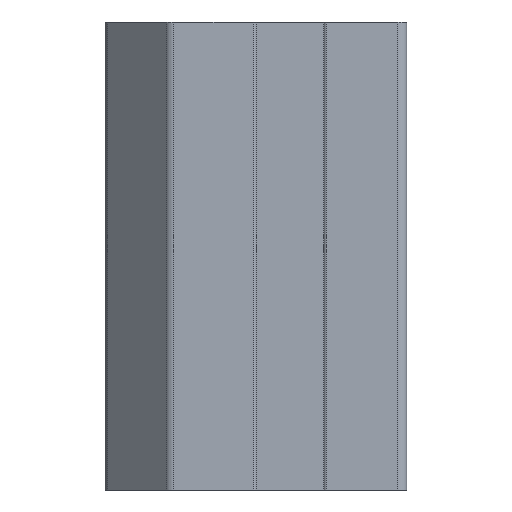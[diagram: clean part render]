
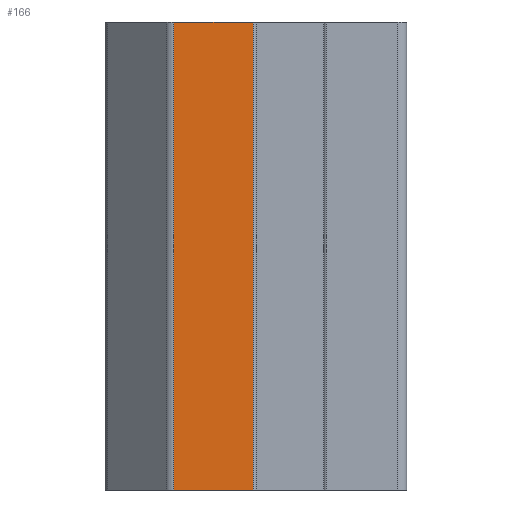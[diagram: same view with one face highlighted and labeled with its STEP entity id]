
A CAD part, front view. The second image highlights one B-rep face of the part: STEP entity #166.
In plain terms, the highlighted planar face has unit normal (0, -1, 0).
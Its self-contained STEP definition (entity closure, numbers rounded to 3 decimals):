
#166=ADVANCED_FACE('',(#410),#411,.F.);
#410=FACE_OUTER_BOUND('',#737,.T.);
#411=PLANE('',#738);
#737=EDGE_LOOP('',(#1153,#1154,#1155,#1156));
#738=AXIS2_PLACEMENT_3D('',#1157,#1158,#1159);
#1153=ORIENTED_EDGE('',*,*,#2122,.T.);
#1154=ORIENTED_EDGE('',*,*,#2123,.F.);
#1155=ORIENTED_EDGE('',*,*,#2124,.F.);
#1156=ORIENTED_EDGE('',*,*,#2125,.T.);
#1157=CARTESIAN_POINT('',(-24.941,0.0,50.0));
#1158=DIRECTION('',(0.,1.0,0.0));
#1159=DIRECTION('',(-1.0,0.,0.0));
#2122=EDGE_CURVE('',#2604,#2605,#2606,.T.);
#2123=EDGE_CURVE('',#2607,#2605,#2608,.T.);
#2124=EDGE_CURVE('',#2609,#2607,#2610,.T.);
#2125=EDGE_CURVE('',#2609,#2604,#2611,.T.);
#2604=VERTEX_POINT('',#3276);
#2605=VERTEX_POINT('',#3277);
#2606=LINE('',#3278,#3279);
#2607=VERTEX_POINT('',#3280);
#2608=LINE('',#3281,#3282);
#2609=VERTEX_POINT('',#3283);
#2610=LINE('',#3284,#3285);
#2611=LINE('',#3286,#3287);
#3276=CARTESIAN_POINT('',(-24.941,0.0,0.0));
#3277=CARTESIAN_POINT('',(-16.4,0.,0.0));
#3278=CARTESIAN_POINT('',(-24.941,0.0,0.0));
#3279=VECTOR('',#3976,1.0);
#3280=CARTESIAN_POINT('',(-16.4,0.,50.0));
#3281=CARTESIAN_POINT('',(-16.4,0.,50.0));
#3282=VECTOR('',#3977,1.0);
#3283=CARTESIAN_POINT('',(-24.941,0.0,50.0));
#3284=CARTESIAN_POINT('',(-24.941,0.0,50.0));
#3285=VECTOR('',#3978,1.0);
#3286=CARTESIAN_POINT('',(-24.941,0.0,50.0));
#3287=VECTOR('',#3979,1.0);
#3976=DIRECTION('',(1.0,0.,0.0));
#3977=DIRECTION('',(0.0,0.0,-1.0));
#3978=DIRECTION('',(1.0,0.,0.0));
#3979=DIRECTION('',(0.0,0.0,-1.0));
